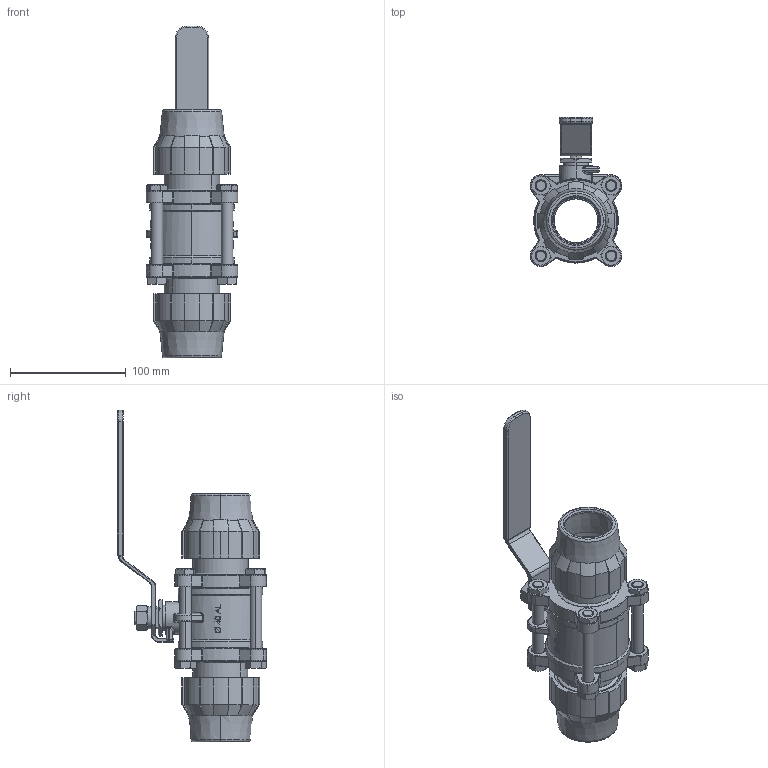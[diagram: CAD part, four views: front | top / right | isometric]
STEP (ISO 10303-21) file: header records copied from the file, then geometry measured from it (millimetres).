
FILE_DESCRIPTION (( 'STEP AP203' ), '1' );
FILE_NAME ('QLVAINOX040.STEP', '2014-12-01T10:10:52', ( '' ), ( '' ), 'SwSTEP 2.0', 'SolidWorks 2013', '' );
FILE_SCHEMA (( 'CONFIG_CONTROL_DESIGN' ));
Length unit declared in the file: millimetre
Products named in the file (6): hex thin nut chamfered gradeab_iso_Hexagon Thin Nut ISO - 4035 - M10 - N; QLVAINOX040; QLVAINOX40AL; CCONVAL040128; CGHQUICK040AL; hex bolt gradeb_iso_ISO 4015 - M10 x 80 x 26-C
Assembly tree (13 placements, depth 2):
  QLVAINOX040
    QLVAINOX40AL
    CCONVAL040128  x2
    CGHQUICK040AL  x2
    hex bolt gradeb_iso_ISO 4015 - M10 x 80 x 26-C  x4
    hex thin nut chamfered gradeab_iso_Hexagon Thin Nut ISO - 4035 - M10 - N  x4
Bounding box: 79.22 x 128.71 x 286.64 mm (x, y, z)
Volume: 405890.2 mm3; surface area: 191085.9 mm2
Topology: 17 solids, 17 shells, 1186 faces, 2800 edges, 1679 vertices
Faces by surface type: cylinder 377, plane 321, torus 161, bspline 159, cone 154, sphere 14
Entity records: 29160 total; most frequent: CARTESIAN_POINT 11251, ORIENTED_EDGE 3676, DIRECTION 3422, EDGE_CURVE 1838, AXIS2_PLACEMENT_3D 1347, VERTEX_POINT 1114, EDGE_LOOP 842, ADVANCED_FACE 774
